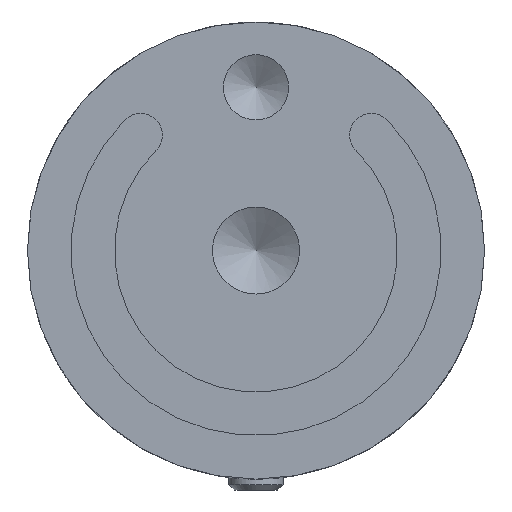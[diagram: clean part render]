
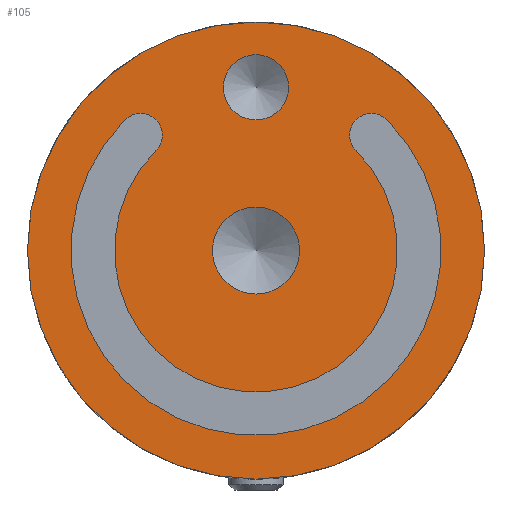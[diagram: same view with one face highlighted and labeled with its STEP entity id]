
A CAD part, front view. The second image highlights one B-rep face of the part: STEP entity #105.
In plain terms, the highlighted planar face has unit normal (0, -1, 0).
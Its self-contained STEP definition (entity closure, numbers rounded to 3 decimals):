
#105 = ADVANCED_FACE( '', ( #188, #189, #190, #191 ), #192, .F. );
#188 = FACE_BOUND( '', #289, .T. );
#189 = FACE_BOUND( '', #290, .T. );
#190 = FACE_OUTER_BOUND( '', #291, .T. );
#191 = FACE_BOUND( '', #292, .T. );
#192 = PLANE( '', #293 );
#289 = EDGE_LOOP( '', ( #545 ) );
#290 = EDGE_LOOP( '', ( #546, #547, #548, #549 ) );
#291 = EDGE_LOOP( '', ( #550 ) );
#292 = EDGE_LOOP( '', ( #551 ) );
#293 = AXIS2_PLACEMENT_3D( '', #552, #553, #554 );
#545 = ORIENTED_EDGE( '', *, *, #726, .F. );
#546 = ORIENTED_EDGE( '', *, *, #668, .T. );
#547 = ORIENTED_EDGE( '', *, *, #664, .T. );
#548 = ORIENTED_EDGE( '', *, *, #667, .F. );
#549 = ORIENTED_EDGE( '', *, *, #657, .T. );
#550 = ORIENTED_EDGE( '', *, *, #693, .T. );
#551 = ORIENTED_EDGE( '', *, *, #724, .T. );
#552 = CARTESIAN_POINT( '', ( 21., 0., 0. ) );
#553 = DIRECTION( '', ( 0., 1., 0. ) );
#554 = DIRECTION( '', ( 0., 0., 1. ) );
#657 = EDGE_CURVE( '', #766, #767, #768, .T. );
#664 = EDGE_CURVE( '', #775, #779, #781, .T. );
#667 = EDGE_CURVE( '', #766, #779, #784, .T. );
#668 = EDGE_CURVE( '', #767, #775, #785, .T. );
#693 = EDGE_CURVE( '', #828, #828, #829, .T. );
#724 = EDGE_CURVE( '', #883, #883, #884, .T. );
#726 = EDGE_CURVE( '', #885, #885, #886, .T. );
#766 = VERTEX_POINT( '', #951 );
#767 = VERTEX_POINT( '', #952 );
#768 = CIRCLE( '', #953, 2. );
#775 = VERTEX_POINT( '', #962 );
#779 = VERTEX_POINT( '', #967 );
#781 = CIRCLE( '', #970, 2. );
#784 = CIRCLE( '', #973, 13. );
#785 = CIRCLE( '', #974, 17. );
#828 = VERTEX_POINT( '', #1159 );
#829 = CIRCLE( '', #1160, 21. );
#883 = VERTEX_POINT( '', #1390 );
#884 = CIRCLE( '', #1391, 3. );
#885 = VERTEX_POINT( '', #1392 );
#886 = CIRCLE( '', #1393, 4. );
#951 = CARTESIAN_POINT( '', ( 9.192, 0., 9.192 ) );
#952 = CARTESIAN_POINT( '', ( 12.021, 0., 12.021 ) );
#953 = AXIS2_PLACEMENT_3D( '', #1448, #1449, #1450 );
#962 = CARTESIAN_POINT( '', ( -12.021, 0., 12.021 ) );
#967 = CARTESIAN_POINT( '', ( -9.192, 0., 9.192 ) );
#970 = AXIS2_PLACEMENT_3D( '', #1461, #1462, #1463 );
#973 = AXIS2_PLACEMENT_3D( '', #1470, #1471, #1472 );
#974 = AXIS2_PLACEMENT_3D( '', #1473, #1474, #1475 );
#1159 = CARTESIAN_POINT( '', ( 0., 0., -21. ) );
#1160 = AXIS2_PLACEMENT_3D( '', #1506, #1507, #1508 );
#1390 = CARTESIAN_POINT( '', ( 0., 0., 18. ) );
#1391 = AXIS2_PLACEMENT_3D( '', #1538, #1539, #1540 );
#1392 = CARTESIAN_POINT( '', ( 0., 0., -4. ) );
#1393 = AXIS2_PLACEMENT_3D( '', #1541, #1542, #1543 );
#1448 = CARTESIAN_POINT( '', ( 10.607, 0., 10.607 ) );
#1449 = DIRECTION( '', ( 0., 1., 0. ) );
#1450 = DIRECTION( '', ( 1., 0., 0. ) );
#1461 = CARTESIAN_POINT( '', ( -10.607, 0., 10.607 ) );
#1462 = DIRECTION( '', ( 0., 1., 0. ) );
#1463 = DIRECTION( '', ( 1., 0., 0. ) );
#1470 = CARTESIAN_POINT( '', ( 0., 0., 0. ) );
#1471 = DIRECTION( '', ( 0., 1., 0. ) );
#1472 = DIRECTION( '', ( 0., 0., 1. ) );
#1473 = CARTESIAN_POINT( '', ( 0., 0., 0. ) );
#1474 = DIRECTION( '', ( 0., 1., 0. ) );
#1475 = DIRECTION( '', ( 0., 0., 1. ) );
#1506 = CARTESIAN_POINT( '', ( 0., 0., 0. ) );
#1507 = DIRECTION( '', ( 0., -1., 0. ) );
#1508 = DIRECTION( '', ( 0., 0., -1. ) );
#1538 = CARTESIAN_POINT( '', ( 0., 0., 15. ) );
#1539 = DIRECTION( '', ( 0., 1., 0. ) );
#1540 = DIRECTION( '', ( 0., 0., 1. ) );
#1541 = CARTESIAN_POINT( '', ( 0., 0., 0. ) );
#1542 = DIRECTION( '', ( 0., -1., 0. ) );
#1543 = DIRECTION( '', ( 0., 0., -1. ) );
